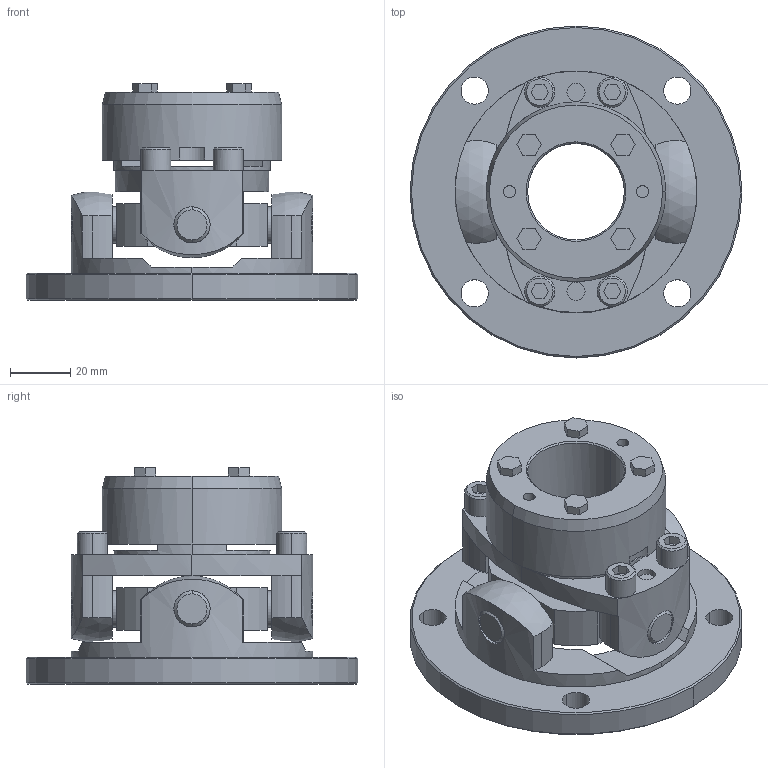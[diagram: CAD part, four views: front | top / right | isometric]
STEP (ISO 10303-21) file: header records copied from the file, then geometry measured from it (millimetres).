
FILE_DESCRIPTION((''),'2;1');
FILE_NAME('UCNF-80T7-32.stp','2011-09-17T16:34:54',(''),(''),'AutoCAD STEP 2000i','AutoCAD 2000i',', , ');
FILE_SCHEMA(('CONFIG_CONTROL_DESIGN'));
Length unit declared in the file: millimetre
Products named in the file (12): UCNF-80T7-32; 忣兜1; UCN80T7-T032; UCN80T7-T030; UCN80T7-T028; UCN80T7-T024; UCN80T7-T022; UCN80T7-T019; UCNF-8002; UCN80T7-T017-1; UCN80T7-T017; UCN80-SEN
Assembly tree (11 placements, depth 2):
  UCNF-80T7-32
    忣兜1
    UCN80T7-T032
    UCN80T7-T030
    UCN80T7-T028
    UCN80T7-T024
    UCN80T7-T022
    UCN80T7-T019
    UCNF-8002
    UCN80T7-T017-1
    UCN80T7-T017
    UCN80-SEN
Bounding box: 110 x 110 x 71.8 mm (x, y, z)
Volume: 192894.3 mm3; surface area: 55539.9 mm2
Topology: 1 solids, 1 shells, 289 faces, 726 edges, 472 vertices
Faces by surface type: plane 141, cylinder 106, cone 38, sphere 4
Entity records: 9387 total; most frequent: CARTESIAN_POINT 1903, DIRECTION 1626, ORIENTED_EDGE 1452, EDGE_CURVE 726, AXIS2_PLACEMENT_3D 615, VERTEX_POINT 472, VECTOR 396, LINE 396
